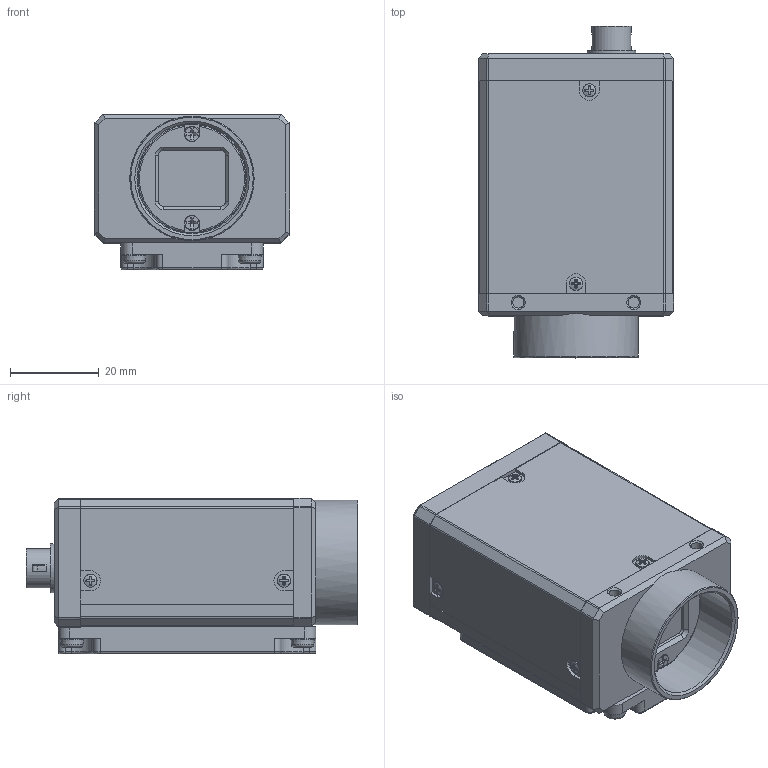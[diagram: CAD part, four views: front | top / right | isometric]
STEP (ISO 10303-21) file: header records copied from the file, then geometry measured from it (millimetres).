
FILE_DESCRIPTION(('STEP AP214'),'1');
FILE_NAME('CS_type-c(USB).stp','2024-11-01T06:10:15',(' '),(' '),'Spatial InterOp 3D',' ',' ');
FILE_SCHEMA(('AUTOMOTIVE_DESIGN { 1 0 10303 214 1 1 1 1 }'));
Length unit declared in the file: metre
Products named in the file (3): CS_type-c(USB); Component1; Component2
Assembly tree (2 placements, depth 2):
  CS_type-c(USB)
    Component1
    Component2
Bounding box: 44 x 74.76 x 35.1 mm (x, y, z)
Volume: 79082.6 mm3; surface area: 28189.5 mm2
Topology: 6 solids, 9 shells, 1700 faces, 4630 edges, 2960 vertices
Faces by surface type: plane 866, cylinder 506, torus 159, bspline 124, cone 35, sphere 10
Full cylindrical faces by diameter (mm): 0.522 x6, 0.8 x2, 1.6 x2, 2 x2, 2.2 x4, 2.5 x6, 2.6 x1, 3 x15, 3.2 x4, 5.6 x1, 5.7 x1, 6 x1, 7.2 x2, 8 x1, 8.85 x1, 11 x1, 11.8 x1, 24.3 x1, 24.8 x1, 28 x1
Entity records: 93150 total; most frequent: CARTESIAN_POINT 18012, ORIENTED_EDGE 8884, DIRECTION 8785, STYLED_ITEM 5580, PRESENTATION_STYLE_ASSIGNMENT 5580, COLOUR_RGB 5580, EDGE_CURVE 4442, CURVE_STYLE 3875
